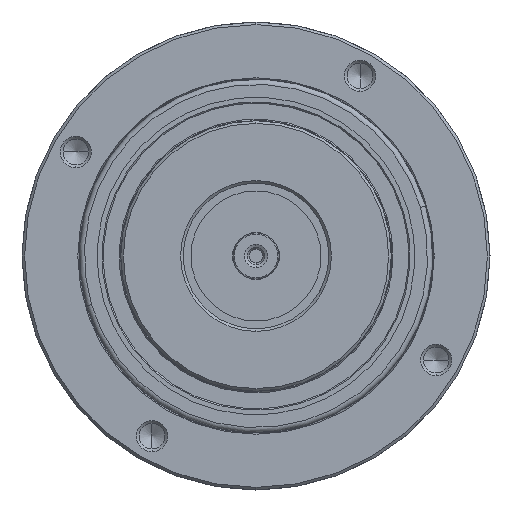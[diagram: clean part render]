
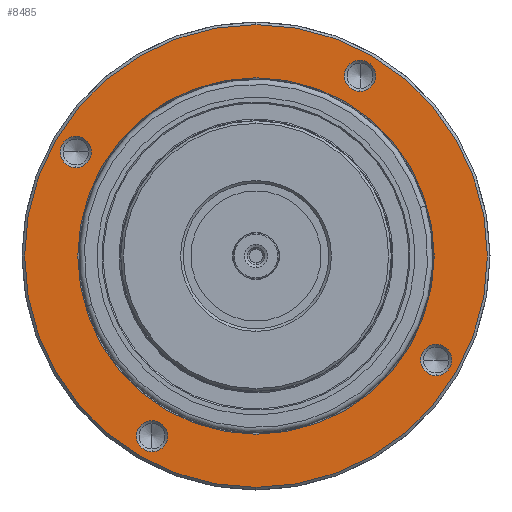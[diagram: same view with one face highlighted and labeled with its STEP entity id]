
A CAD part, left-side view. The second image highlights one B-rep face of the part: STEP entity #8485.
In plain terms, the highlighted planar face has unit normal (-1, 0, 0).
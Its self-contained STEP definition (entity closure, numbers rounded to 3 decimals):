
#57 = ORIENTED_EDGE ( 'NONE', *, *, #2390, .T. ) ;
#64 = CIRCLE ( 'NONE', #3876, 3. ) ;
#213 = CARTESIAN_POINT ( 'NONE',  ( 0., 34.641, 23. ) ) ;
#260 = AXIS2_PLACEMENT_3D ( 'NONE', #5612, #3205, #7038 ) ;
#341 = VERTEX_POINT ( 'NONE', #1223 ) ;
#364 = CARTESIAN_POINT ( 'NONE',  ( 0., 20., -34.641 ) ) ;
#369 = DIRECTION ( 'NONE',  ( 1., 0., 0. ) ) ;
#373 = FACE_BOUND ( 'NONE', #3683, .T. ) ;
#419 = DIRECTION ( 'NONE',  ( 1., 0., 0. ) ) ;
#429 = DIRECTION ( 'NONE',  ( 0., 0., -1. ) ) ;
#479 = VERTEX_POINT ( 'NONE', #7009 ) ;
#516 = AXIS2_PLACEMENT_3D ( 'NONE', #4047, #7039, #5551 ) ;
#655 = DIRECTION ( 'NONE',  ( 0., 0., 1. ) ) ;
#804 = CIRCLE ( 'NONE', #7619, 3. ) ;
#846 = EDGE_CURVE ( 'NONE', #9408, #2002, #4865, .T. ) ;
#1002 = CARTESIAN_POINT ( 'NONE',  ( 0., -34.641, -20. ) ) ;
#1223 = CARTESIAN_POINT ( 'NONE',  ( 0., 20., -37.641 ) ) ;
#1263 = PLANE ( 'NONE',  #3617 ) ;
#1302 = DIRECTION ( 'NONE',  ( 0., 0., 1. ) ) ;
#1370 = CARTESIAN_POINT ( 'NONE',  ( 0., 0., 0. ) ) ;
#1381 = ORIENTED_EDGE ( 'NONE', *, *, #5289, .T. ) ;
#1385 = FACE_BOUND ( 'NONE', #6111, .T. ) ;
#1402 = EDGE_CURVE ( 'NONE', #8986, #9278, #9216, .T. ) ;
#1414 = CARTESIAN_POINT ( 'NONE',  ( 0., -20., 34.641 ) ) ;
#1491 = ORIENTED_EDGE ( 'NONE', *, *, #6274, .F. ) ;
#1549 = CARTESIAN_POINT ( 'NONE',  ( 0., 0., -34.268 ) ) ;
#1779 = AXIS2_PLACEMENT_3D ( 'NONE', #6402, #4947, #429 ) ;
#1848 = AXIS2_PLACEMENT_3D ( 'NONE', #364, #419, #3473 ) ;
#1863 = EDGE_LOOP ( 'NONE', ( #1381, #5933 ) ) ;
#2002 = VERTEX_POINT ( 'NONE', #1549 ) ;
#2069 = DIRECTION ( 'NONE',  ( 1., 0., 0. ) ) ;
#2073 = CARTESIAN_POINT ( 'NONE',  ( 0., 44.5, 0. ) ) ;
#2076 = DIRECTION ( 'NONE',  ( 1., 0., 0. ) ) ;
#2390 = EDGE_CURVE ( 'NONE', #3602, #479, #804, .T. ) ;
#2421 = CARTESIAN_POINT ( 'NONE',  ( 0., -34.641, -23. ) ) ;
#2428 = EDGE_CURVE ( 'NONE', #2939, #8542, #6544, .T. ) ;
#2594 = CIRCLE ( 'NONE', #516, 3. ) ;
#2633 = CARTESIAN_POINT ( 'NONE',  ( 0., 20., -31.641 ) ) ;
#2670 = VERTEX_POINT ( 'NONE', #2633 ) ;
#2728 = FACE_OUTER_BOUND ( 'NONE', #5498, .T. ) ;
#2757 = EDGE_CURVE ( 'NONE', #2002, #9408, #8956, .T. ) ;
#2778 = CIRCLE ( 'NONE', #9404, 3. ) ;
#2879 = DIRECTION ( 'NONE',  ( 1., 0., 0. ) ) ;
#2939 = VERTEX_POINT ( 'NONE', #8143 ) ;
#3205 = DIRECTION ( 'NONE',  ( 1., 0., 0. ) ) ;
#3273 = CARTESIAN_POINT ( 'NONE',  ( 0., -34.641, -17. ) ) ;
#3427 = AXIS2_PLACEMENT_3D ( 'NONE', #1370, #3658, #9688 ) ;
#3434 = FACE_BOUND ( 'NONE', #1863, .T. ) ;
#3473 = DIRECTION ( 'NONE',  ( 0., 0., 1. ) ) ;
#3548 = DIRECTION ( 'NONE',  ( 0., 0., 1. ) ) ;
#3602 = VERTEX_POINT ( 'NONE', #5500 ) ;
#3617 = AXIS2_PLACEMENT_3D ( 'NONE', #2073, #6376, #3548 ) ;
#3658 = DIRECTION ( 'NONE',  ( 1., 0., 0. ) ) ;
#3683 = EDGE_LOOP ( 'NONE', ( #9005, #6781 ) ) ;
#3876 = AXIS2_PLACEMENT_3D ( 'NONE', #9730, #8287, #655 ) ;
#3938 = EDGE_LOOP ( 'NONE', ( #8811, #5134 ) ) ;
#4047 = CARTESIAN_POINT ( 'NONE',  ( 0., -20., 34.641 ) ) ;
#4051 = DIRECTION ( 'NONE',  ( 1., 0., 0. ) ) ;
#4561 = DIRECTION ( 'NONE',  ( 0., 0., 1. ) ) ;
#4614 = CARTESIAN_POINT ( 'NONE',  ( 0., 0., 34.268 ) ) ;
#4675 = CIRCLE ( 'NONE', #7807, 3. ) ;
#4681 = DIRECTION ( 'NONE',  ( 0., 0., 1. ) ) ;
#4865 = CIRCLE ( 'NONE', #260, 34.268 ) ;
#4947 = DIRECTION ( 'NONE',  ( 1., 0., 0. ) ) ;
#5036 = DIRECTION ( 'NONE',  ( 0., 0., 1. ) ) ;
#5121 = ORIENTED_EDGE ( 'NONE', *, *, #7164, .T. ) ;
#5134 = ORIENTED_EDGE ( 'NONE', *, *, #2757, .T. ) ;
#5264 = EDGE_CURVE ( 'NONE', #7322, #7173, #64, .T. ) ;
#5289 = EDGE_CURVE ( 'NONE', #2670, #341, #2778, .T. ) ;
#5489 = CIRCLE ( 'NONE', #9466, 3. ) ;
#5498 = EDGE_LOOP ( 'NONE', ( #1491, #8078 ) ) ;
#5500 = CARTESIAN_POINT ( 'NONE',  ( 0., -20., 37.641 ) ) ;
#5551 = DIRECTION ( 'NONE',  ( 0., 0., 1. ) ) ;
#5612 = CARTESIAN_POINT ( 'NONE',  ( 0., 0., 0. ) ) ;
#5676 = DIRECTION ( 'NONE',  ( 0., 0., 1. ) ) ;
#5933 = ORIENTED_EDGE ( 'NONE', *, *, #7823, .T. ) ;
#6111 = EDGE_LOOP ( 'NONE', ( #57, #6954 ) ) ;
#6274 = EDGE_CURVE ( 'NONE', #8542, #2939, #9215, .T. ) ;
#6376 = DIRECTION ( 'NONE',  ( -1., 0., 0. ) ) ;
#6402 = CARTESIAN_POINT ( 'NONE',  ( 0., 0., 0. ) ) ;
#6451 = EDGE_CURVE ( 'NONE', #479, #3602, #2594, .T. ) ;
#6544 = CIRCLE ( 'NONE', #3427, 44.5 ) ;
#6781 = ORIENTED_EDGE ( 'NONE', *, *, #9323, .T. ) ;
#6954 = ORIENTED_EDGE ( 'NONE', *, *, #6451, .T. ) ;
#7009 = CARTESIAN_POINT ( 'NONE',  ( 0., -20., 31.641 ) ) ;
#7038 = DIRECTION ( 'NONE',  ( 0., 0., 1. ) ) ;
#7039 = DIRECTION ( 'NONE',  ( 1., 0., 0. ) ) ;
#7148 = CARTESIAN_POINT ( 'NONE',  ( 0., 34.641, 20. ) ) ;
#7164 = EDGE_CURVE ( 'NONE', #7173, #7322, #4675, .T. ) ;
#7173 = VERTEX_POINT ( 'NONE', #8697 ) ;
#7272 = ORIENTED_EDGE ( 'NONE', *, *, #5264, .T. ) ;
#7322 = VERTEX_POINT ( 'NONE', #213 ) ;
#7537 = CIRCLE ( 'NONE', #1848, 3. ) ;
#7548 = CARTESIAN_POINT ( 'NONE',  ( 0., 20., -34.641 ) ) ;
#7619 = AXIS2_PLACEMENT_3D ( 'NONE', #1414, #2076, #5036 ) ;
#7636 = CARTESIAN_POINT ( 'NONE',  ( 0., -34.641, -20. ) ) ;
#7757 = FACE_BOUND ( 'NONE', #3938, .T. ) ;
#7807 = AXIS2_PLACEMENT_3D ( 'NONE', #7148, #369, #5676 ) ;
#7823 = EDGE_CURVE ( 'NONE', #341, #2670, #7537, .T. ) ;
#8008 = DIRECTION ( 'NONE',  ( 0., 0., 1. ) ) ;
#8009 = AXIS2_PLACEMENT_3D ( 'NONE', #8356, #2879, #4561 ) ;
#8078 = ORIENTED_EDGE ( 'NONE', *, *, #2428, .F. ) ;
#8143 = CARTESIAN_POINT ( 'NONE',  ( 0., 0., 44.5 ) ) ;
#8266 = AXIS2_PLACEMENT_3D ( 'NONE', #7636, #8419, #4681 ) ;
#8287 = DIRECTION ( 'NONE',  ( 1., 0., 0. ) ) ;
#8356 = CARTESIAN_POINT ( 'NONE',  ( 0., 0., 0. ) ) ;
#8419 = DIRECTION ( 'NONE',  ( 1., 0., 0. ) ) ;
#8485 = ADVANCED_FACE ( 'NONE', ( #7757, #9661, #1385, #373, #3434, #2728 ), #1263, .T. ) ;
#8542 = VERTEX_POINT ( 'NONE', #8914 ) ;
#8697 = CARTESIAN_POINT ( 'NONE',  ( 0., 34.641, 17. ) ) ;
#8811 = ORIENTED_EDGE ( 'NONE', *, *, #846, .T. ) ;
#8914 = CARTESIAN_POINT ( 'NONE',  ( 0., 0., -44.5 ) ) ;
#8956 = CIRCLE ( 'NONE', #8009, 34.268 ) ;
#8986 = VERTEX_POINT ( 'NONE', #3273 ) ;
#9005 = ORIENTED_EDGE ( 'NONE', *, *, #1402, .T. ) ;
#9215 = CIRCLE ( 'NONE', #1779, 44.5 ) ;
#9216 = CIRCLE ( 'NONE', #8266, 3. ) ;
#9278 = VERTEX_POINT ( 'NONE', #2421 ) ;
#9323 = EDGE_CURVE ( 'NONE', #9278, #8986, #5489, .T. ) ;
#9404 = AXIS2_PLACEMENT_3D ( 'NONE', #7548, #2069, #1302 ) ;
#9408 = VERTEX_POINT ( 'NONE', #4614 ) ;
#9466 = AXIS2_PLACEMENT_3D ( 'NONE', #1002, #4051, #8008 ) ;
#9488 = EDGE_LOOP ( 'NONE', ( #7272, #5121 ) ) ;
#9661 = FACE_BOUND ( 'NONE', #9488, .T. ) ;
#9688 = DIRECTION ( 'NONE',  ( 0., 0., -1. ) ) ;
#9730 = CARTESIAN_POINT ( 'NONE',  ( 0., 34.641, 20. ) ) ;
